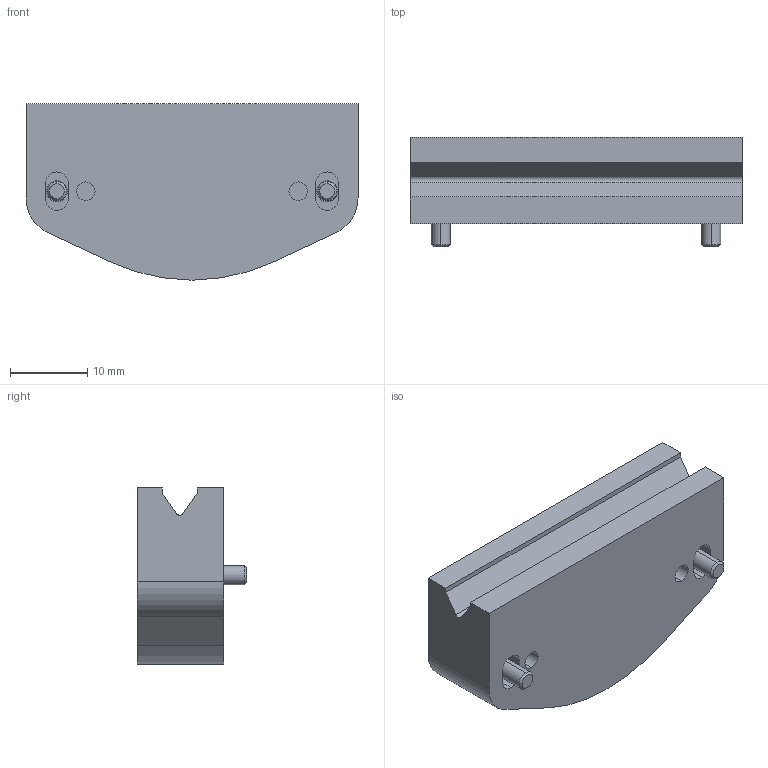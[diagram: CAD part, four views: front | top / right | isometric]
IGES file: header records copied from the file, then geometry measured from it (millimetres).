
Start section: 3D InterOp IGES (v. 2019 1.0.2), Spatial Corp. Copyright (c) 1999-2017.
Global section: file name: CW195.igs; native system: Spatial Corp.; preprocessor: 3D InterOp GENERIC/IGES 3.0; author: Noname; organization: Noname; date: 20220630.144757; units: millimetre
Bounding box: 43 x 14.2 x 22.8 mm (x, y, z)
Surface area: 3903.7 mm2 (no closed solid volume)
Topology: 0 solids, 0 shells, 108 faces, 560 edges, 560 vertices
Faces by surface type: extrusion 59, revolution 49
